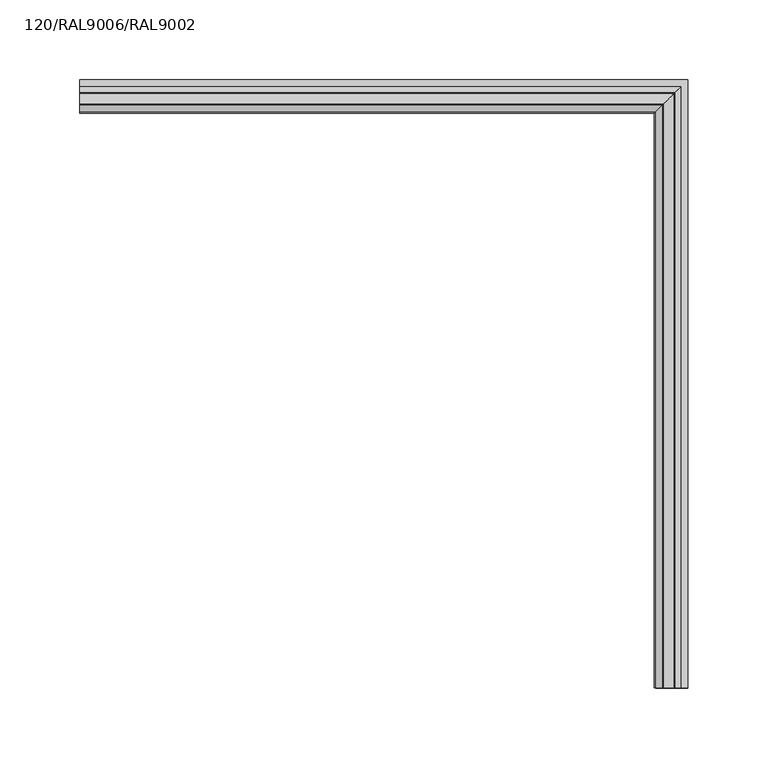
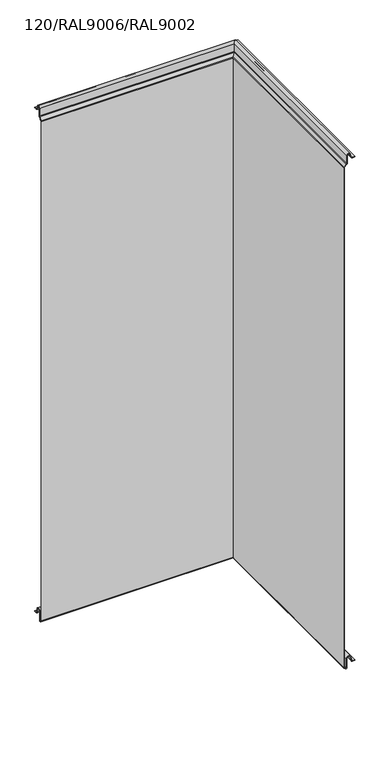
"""IFC4 building model written with IfcOpenShell, lengths in millimetres: plate geometry, TR_C_H_FHL_Corner_Tr_A : 120/RAL9006/RAL9002."""

from ifc_helpers import new_model, si_unit, frame, origin, place, context, project, spatial, polyline, circle_curve, ellipse_curve, source, transform, mapped, element, save
from ifc_brep_helpers import plane_surface, cylinder_surface, revolved_surface, advanced_brep


def plate_120_ral9006_ral9002_229d352a(model_context):
    return source(origin(), model_context, "Body", "AdvancedBrep", [
        advanced_brep(
        [(120.0, -480.0, 989.8218254), (120.0, -480.0, 0.4813708), (120.8054564, -480.0, -1.4631728), (122.6711418, -480.0, -3.3288582), (126.0, -480.0, -1.95), (126.0, -480.0, 15.65), (132.8475867, -480.0, 16.2490862), (134.1839721, -480.0, 8.6700685), (136.0551068, -480.0, 7.1), (141.0, -480.0, 7.1), (141.0, -480.0, 7.9), (136.0551068, -480.0, 7.9), (134.9718183, -480.0, 8.808987), (133.635433, -480.0, 16.3880048), (125.2, -480.0, 15.65), (125.2, -480.0, -1.95), (123.2368272, -480.0, -2.7631728), (121.3711418, -480.0, -0.8974874), (120.8, -480.0, 0.4813708), (120.8, -480.0, 989.8218254), (121.4443651, -480.0, 991.3774603), (125.8334524, -480.0, 995.7665476), (126.8, -480.0, 998.1), (126.8, -480.0, 1012.85), (131.662779, -480.0, 1013.275438), (132.4060919, -480.0, 1009.0599008), (136.8869672, -480.0, 1005.3), (141.0, -480.0, 1005.3), (141.0, -480.0, 1006.1), (136.8869672, -480.0, 1006.1), (133.1939382, -480.0, 1009.1988193), (132.4506252, -480.0, 1013.4143566), (126.0, -480.0, 1012.85), (126.0, -480.0, 998.1), (125.267767, -480.0, 996.332233), (120.8786797, -480.0, 991.9431458), (120.0, -120.0, 0.4813708), (120.0, -120.0, 989.8218254), (-240.0, -120.0, 989.8218254), (-240.0, -120.0, 0.4813708), (120.8, -119.2, 989.8218254), (120.8, -119.2, 0.4813708), (-240.0, -119.2, 0.4813708), (-240.0, -119.2, 989.8218254), (-240.0, -119.1213203, 991.9431458), (-240.0, -114.732233, 996.332233), (-240.0, -114.0, 998.1), (-240.0, -114.0, 1012.85), (-240.0, -107.5493748, 1013.4143566), (-240.0, -106.8060618, 1009.1988193), (-240.0, -103.1130328, 1006.1), (-240.0, -99.0, 1006.1), (-240.0, -99.0, 1005.3), (-240.0, -103.1130328, 1005.3), (-240.0, -107.5939081, 1009.0599008), (-240.0, -108.337221, 1013.275438), (-240.0, -113.2, 1012.85), (-240.0, -113.2, 998.1), (-240.0, -114.1665476, 995.7665476), (-240.0, -118.5556349, 991.3774603), (-240.0, -118.6288582, -0.8974874), (-240.0, -116.7631728, -2.7631728), (-240.0, -114.8, -1.95), (-240.0, -114.8, 15.65), (-240.0, -106.364567, 16.3880048), (-240.0, -105.0281817, 8.808987), (-240.0, -103.9448932, 7.9), (-240.0, -99.0, 7.9), (-240.0, -99.0, 7.1), (-240.0, -103.9448932, 7.1), (-240.0, -105.8160279, 8.6700685), (-240.0, -107.1524133, 16.2490862), (-240.0, -114.0, 15.65), (-240.0, -114.0, -1.95), (-240.0, -117.3288582, -3.3288582), (-240.0, -119.1945436, -1.4631728), (120.8054564, -119.1945436, -1.4631728), (122.6711418, -117.3288582, -3.3288582), (126.0, -114.0, -1.95), (126.0, -114.0, 15.65), (132.8475867, -107.1524133, 16.2490862), (134.1839721, -105.8160279, 8.6700685), (136.0551068, -103.9448932, 7.1), (141.0, -99.0, 7.1), (141.0, -99.0, 7.9), (136.0551068, -103.9448932, 7.9), (134.9718183, -105.0281817, 8.808987), (133.635433, -106.364567, 16.3880048), (125.2, -114.8, 15.65), (125.2, -114.8, -1.95), (123.2368272, -116.7631728, -2.7631728), (121.3711418, -118.6288582, -0.8974874), (121.4443651, -118.5556349, 991.3774603), (125.8334524, -114.1665476, 995.7665476), (126.8, -113.2, 998.1), (126.8, -113.2, 1012.85), (131.662779, -108.337221, 1013.275438), (132.4060919, -107.5939081, 1009.0599008), (136.8869672, -103.1130328, 1005.3), (141.0, -99.0, 1005.3), (141.0, -99.0, 1006.1), (136.8869672, -103.1130328, 1006.1), (133.1939382, -106.8060618, 1009.1988193), (132.4506252, -107.5493748, 1013.4143566), (126.0, -114.0, 1012.85), (126.0, -114.0, 998.1), (125.267767, -114.732233, 996.332233), (120.8786797, -119.1213203, 991.9431458)],
        [
            (0, 1),
            (1, 2, circle_curve(frame((122.75, -480.0, 0.4813708), z_axis=(0.0, -1.0, 0.0), x_axis=(-1.0, 0.0, 0.0)), 2.75)),
            (2, 3),
            (3, 4, circle_curve(frame((124.05, -480.0, -1.95), z_axis=(0.0, -1.0, 0.0), x_axis=(-1.0, 0.0, 0.0)), 1.95)),
            (4, 5),
            (5, 6, circle_curve(frame((129.45, -480.0, 15.65), z_axis=(0.0, 1.0, 0.0), x_axis=(-1.0, 0.0, 0.0)), 3.45)),
            (6, 7),
            (7, 8, circle_curve(frame((136.0551068, -480.0, 9.0), z_axis=(0.0, -1.0, 0.0), x_axis=(-1.0, 0.0, 0.0)), 1.9)),
            (8, 9),
            (9, 10),
            (10, 11),
            (11, 12, circle_curve(frame((136.0551068, -480.0, 9.0), z_axis=(0.0, 1.0, 0.0), x_axis=(-1.0, 0.0, 0.0)), 1.1)),
            (12, 13),
            (13, 14, circle_curve(frame((129.45, -480.0, 15.65), z_axis=(0.0, -1.0, 0.0), x_axis=(-1.0, 0.0, 0.0)), 4.25)),
            (14, 15),
            (15, 16, circle_curve(frame((124.05, -480.0, -1.95), z_axis=(0.0, 1.0, 0.0), x_axis=(-1.0, 0.0, 0.0)), 1.15)),
            (16, 17),
            (17, 18, circle_curve(frame((122.75, -480.0, 0.4813708), z_axis=(0.0, 1.0, 0.0), x_axis=(-1.0, 0.0, 0.0)), 1.95)),
            (18, 19),
            (19, 20, circle_curve(frame((123.0, -480.0, 989.8218254), z_axis=(0.0, 1.0, 0.0), x_axis=(-1.0, 0.0, 0.0)), 2.2)),
            (20, 21),
            (21, 22, circle_curve(frame((123.5, -480.0, 998.1), z_axis=(0.0, -1.0, 0.0), x_axis=(-1.0, 0.0, 0.0)), 3.3)),
            (22, 23),
            (23, 24, circle_curve(frame((129.25, -480.0, 1012.85), z_axis=(0.0, 1.0, 0.0), x_axis=(-1.0, 0.0, 0.0)), 2.45)),
            (24, 25),
            (25, 26, circle_curve(frame((136.8869672, -480.0, 1009.85), z_axis=(0.0, -1.0, 0.0), x_axis=(-1.0, 0.0, 0.0)), 4.55)),
            (26, 27),
            (27, 28),
            (28, 29),
            (29, 30, circle_curve(frame((136.8869672, -480.0, 1009.85), z_axis=(0.0, 1.0, 0.0), x_axis=(-1.0, 0.0, 0.0)), 3.75)),
            (30, 31),
            (31, 32, circle_curve(frame((129.25, -480.0, 1012.85), z_axis=(0.0, -1.0, 0.0), x_axis=(-1.0, 0.0, 0.0)), 3.25)),
            (32, 33),
            (33, 34, circle_curve(frame((123.5, -480.0, 998.1), z_axis=(0.0, 1.0, 0.0), x_axis=(-1.0, 0.0, 0.0)), 2.5)),
            (34, 35),
            (35, 0, circle_curve(frame((123.0, -480.0, 989.8218254), z_axis=(0.0, -1.0, 0.0), x_axis=(-1.0, 0.0, 0.0)), 3.0)),
            (36, 37),
            (37, 38),
            (38, 39),
            (39, 36),
            (40, 41),
            (41, 42),
            (42, 43),
            (43, 40),
            (38, 44, circle_curve(frame((-240.0, -117.0, 989.8218254), z_axis=(-1.0, 0.0, 0.0), x_axis=(0.0, -1.0, 0.0)), 3.0)),
            (44, 45),
            (45, 46, circle_curve(frame((-240.0, -116.5, 998.1), z_axis=(1.0, 0.0, 0.0), x_axis=(0.0, -1.0, 0.0)), 2.5)),
            (46, 47),
            (47, 48, circle_curve(frame((-240.0, -110.75, 1012.85), z_axis=(-1.0, 0.0, 0.0), x_axis=(0.0, -1.0, 0.0)), 3.25)),
            (48, 49),
            (49, 50, circle_curve(frame((-240.0, -103.1130328, 1009.85), z_axis=(1.0, 0.0, 0.0), x_axis=(0.0, -1.0, 0.0)), 3.75)),
            (50, 51),
            (51, 52),
            (52, 53),
            (53, 54, circle_curve(frame((-240.0, -103.1130328, 1009.85), z_axis=(-1.0, 0.0, 0.0), x_axis=(0.0, -1.0, 0.0)), 4.55)),
            (54, 55),
            (55, 56, circle_curve(frame((-240.0, -110.75, 1012.85), z_axis=(1.0, 0.0, 0.0), x_axis=(0.0, -1.0, 0.0)), 2.45)),
            (56, 57),
            (57, 58, circle_curve(frame((-240.0, -116.5, 998.1), z_axis=(-1.0, 0.0, 0.0), x_axis=(0.0, -1.0, 0.0)), 3.3)),
            (58, 59),
            (59, 43, circle_curve(frame((-240.0, -117.0, 989.8218254), z_axis=(1.0, 0.0, 0.0), x_axis=(0.0, -1.0, 0.0)), 2.2)),
            (42, 60, circle_curve(frame((-240.0, -117.25, 0.4813708), z_axis=(1.0, 0.0, 0.0), x_axis=(0.0, -1.0, 0.0)), 1.95)),
            (60, 61),
            (61, 62, circle_curve(frame((-240.0, -115.95, -1.95), z_axis=(1.0, 0.0, 0.0), x_axis=(0.0, -1.0, 0.0)), 1.15)),
            (62, 63),
            (63, 64, circle_curve(frame((-240.0, -110.55, 15.65), z_axis=(-1.0, 0.0, 0.0), x_axis=(0.0, -1.0, 0.0)), 4.25)),
            (64, 65),
            (65, 66, circle_curve(frame((-240.0, -103.9448932, 9.0), z_axis=(1.0, 0.0, 0.0), x_axis=(0.0, -1.0, 0.0)), 1.1)),
            (66, 67),
            (67, 68),
            (68, 69),
            (69, 70, circle_curve(frame((-240.0, -103.9448932, 9.0), z_axis=(-1.0, 0.0, 0.0), x_axis=(0.0, -1.0, 0.0)), 1.9)),
            (70, 71),
            (71, 72, circle_curve(frame((-240.0, -110.55, 15.65), z_axis=(1.0, 0.0, 0.0), x_axis=(0.0, -1.0, 0.0)), 3.45)),
            (72, 73),
            (73, 74, circle_curve(frame((-240.0, -115.95, -1.95), z_axis=(-1.0, 0.0, 0.0), x_axis=(0.0, -1.0, 0.0)), 1.95)),
            (74, 75),
            (75, 39, circle_curve(frame((-240.0, -117.25, 0.4813708), z_axis=(-1.0, 0.0, 0.0), x_axis=(0.0, -1.0, 0.0)), 2.75)),
            (0, 37),
            (36, 1),
            (18, 41),
            (40, 19),
            (36, 76, ellipse_curve(frame((122.75, -117.25, 0.4813708), z_axis=(0.7071067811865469, -0.707106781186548, 0.0), x_axis=(-0.7071067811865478, -0.707106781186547, 0.0)), 3.8890873, 2.75)),
            (76, 2),
            (76, 77),
            (77, 3),
            (77, 78, ellipse_curve(frame((124.05, -115.95, -1.95), z_axis=(0.7071067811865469, -0.707106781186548, 0.0), x_axis=(-0.7071067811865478, -0.707106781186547, 0.0)), 2.7577164, 1.95)),
            (78, 4),
            (78, 79),
            (79, 5),
            (79, 80, ellipse_curve(frame((129.45, -110.55, 15.65), z_axis=(-0.7071067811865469, 0.707106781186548, 0.0), x_axis=(0.7071067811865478, 0.707106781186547, 0.0)), 4.8790368, 3.45)),
            (80, 6),
            (80, 81),
            (81, 7),
            (81, 82, ellipse_curve(frame((136.0551068, -103.9448932, 9.0), z_axis=(0.7071067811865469, -0.707106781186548, 0.0), x_axis=(-0.7071067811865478, -0.707106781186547, 0.0)), 2.6870058, 1.9)),
            (82, 8),
            (82, 69),
            (68, 83),
            (83, 9),
            (83, 84),
            (84, 10),
            (84, 67),
            (66, 85),
            (85, 11),
            (85, 86, ellipse_curve(frame((136.0551068, -103.9448932, 9.0), z_axis=(-0.7071067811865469, 0.707106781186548, 0.0), x_axis=(0.7071067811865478, 0.707106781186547, 0.0)), 1.5556349, 1.1)),
            (86, 12),
            (86, 87),
            (87, 13),
            (87, 88, ellipse_curve(frame((129.45, -110.55, 15.65), z_axis=(0.7071067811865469, -0.707106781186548, 0.0), x_axis=(-0.7071067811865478, -0.707106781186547, 0.0)), 6.0104076, 4.25)),
            (88, 14),
            (88, 89),
            (89, 15),
            (89, 90, ellipse_curve(frame((124.05, -115.95, -1.95), z_axis=(-0.7071067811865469, 0.707106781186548, 0.0), x_axis=(0.7071067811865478, 0.707106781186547, 0.0)), 1.6263456, 1.15)),
            (90, 16),
            (90, 91),
            (91, 17),
            (91, 41, ellipse_curve(frame((122.75, -117.25, 0.4813708), z_axis=(-0.7071067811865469, 0.707106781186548, 0.0), x_axis=(0.7071067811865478, 0.707106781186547, 0.0)), 2.7577164, 1.95)),
            (40, 92, ellipse_curve(frame((123.0, -117.0, 989.8218254), z_axis=(-0.7071067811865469, 0.707106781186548, 0.0), x_axis=(0.7071067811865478, 0.707106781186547, 0.0)), 3.1112698, 2.2)),
            (92, 20),
            (92, 93),
            (93, 21),
            (93, 94, ellipse_curve(frame((123.5, -116.5, 998.1), z_axis=(0.7071067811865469, -0.707106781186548, 0.0), x_axis=(-0.7071067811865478, -0.707106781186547, 0.0)), 4.6669048, 3.3)),
            (94, 22),
            (94, 95),
            (95, 23),
            (95, 96, ellipse_curve(frame((129.25, -110.75, 1012.85), z_axis=(-0.7071067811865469, 0.707106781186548, 0.0), x_axis=(0.7071067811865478, 0.707106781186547, 0.0)), 3.4648232, 2.45)),
            (96, 24),
            (96, 97),
            (97, 25),
            (97, 98, ellipse_curve(frame((136.8869672, -103.1130328, 1009.85), z_axis=(0.7071067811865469, -0.707106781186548, 0.0), x_axis=(-0.7071067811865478, -0.707106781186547, 0.0)), 6.4346717, 4.55)),
            (98, 26),
            (98, 53),
            (52, 99),
            (99, 27),
            (99, 100),
            (100, 28),
            (100, 51),
            (50, 101),
            (101, 29),
            (101, 102, ellipse_curve(frame((136.8869672, -103.1130328, 1009.85), z_axis=(-0.7071067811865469, 0.707106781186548, 0.0), x_axis=(0.7071067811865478, 0.707106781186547, 0.0)), 5.3033009, 3.75)),
            (102, 30),
            (102, 103),
            (103, 31),
            (103, 104, ellipse_curve(frame((129.25, -110.75, 1012.85), z_axis=(0.7071067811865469, -0.707106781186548, 0.0), x_axis=(-0.7071067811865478, -0.707106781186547, 0.0)), 4.5961941, 3.25)),
            (104, 32),
            (104, 105),
            (105, 33),
            (105, 106, ellipse_curve(frame((123.5, -116.5, 998.1), z_axis=(-0.7071067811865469, 0.707106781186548, 0.0), x_axis=(0.7071067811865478, 0.707106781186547, 0.0)), 3.5355339, 2.5)),
            (106, 34),
            (106, 107),
            (107, 35),
            (107, 37, ellipse_curve(frame((123.0, -117.0, 989.8218254), z_axis=(0.7071067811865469, -0.707106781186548, 0.0), x_axis=(-0.7071067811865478, -0.707106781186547, 0.0)), 4.2426407, 3.0)),
            (75, 76),
            (74, 77),
            (73, 78),
            (72, 79),
            (71, 80),
            (70, 81),
            (65, 86),
            (64, 87),
            (63, 88),
            (62, 89),
            (61, 90),
            (60, 91),
            (59, 92),
            (58, 93),
            (57, 94),
            (56, 95),
            (55, 96),
            (54, 97),
            (49, 102),
            (48, 103),
            (47, 104),
            (46, 105),
            (45, 106),
            (44, 107),
        ],
        [
            plane_surface(frame((240.0, -480.0, 0.0), z_axis=(0.0, -1.0, 0.0), x_axis=(0.0, 0.0, 1.0))),
            plane_surface(frame((120.0, -120.0, 989.8218254), z_axis=(0.0, -1.0, 0.0), x_axis=(-1.0, 0.0, 0.0))),
            plane_surface(frame((120.8, -119.2, 0.4813708), z_axis=(0.0, 1.0, 0.0), x_axis=(-1.0, 0.0, 0.0))),
            plane_surface(frame((-240.0, 0.0, 0.0), z_axis=(-1.0, 0.0, 0.0), x_axis=(0.0, 0.0, 1.0))),
            plane_surface(frame((120.0, -480.0, 989.8218254), z_axis=(-1.0, 0.0, 0.0), x_axis=(0.0, 1.0, 0.0))),
            plane_surface(frame((120.8, -480.0, 0.4813708), z_axis=(1.0, 0.0, 0.0), x_axis=(0.0, 1.0, 0.0))),
            cylinder_surface(frame((122.75, -480.0, 0.4813708), z_axis=(0.0, -1.0, 0.0), x_axis=(-1.0, 0.0, 0.0)), 2.75),
            plane_surface(frame((120.8054564, -480.0, -1.4631728), z_axis=(-0.7071067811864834, 0.0, -0.7071067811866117), x_axis=(0.0, 1.0, 0.0))),
            cylinder_surface(frame((124.05, -480.0, -1.95), z_axis=(0.0, -1.0, 0.0), x_axis=(-1.0, 0.0, 0.0)), 1.95),
            plane_surface(frame((126.0, -480.0, -1.95), z_axis=(1.0, 0.0, 0.0), x_axis=(0.0, 1.0, 0.0))),
            revolved_surface(polyline([(125.99999999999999, -107.09999999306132, 15.65), (125.99999999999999, -480.0, 15.65)]), (129.45, -480.0, 15.65), (0.0, 1.0, 0.0)),
            plane_surface(frame((132.8475867, -480.0, 16.2490862), z_axis=(-0.9848077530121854, 0.0, -0.1736481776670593), x_axis=(0.0, 1.0, 0.0))),
            cylinder_surface(frame((136.0551068, -480.0, 9.0), z_axis=(0.0, -1.0, 0.0), x_axis=(-1.0, 0.0, 0.0)), 1.9),
            plane_surface(frame((136.0551068, -480.0, 7.1), z_axis=(0.0, 0.0, -1.0), x_axis=(0.0, 1.0, 0.0))),
            plane_surface(frame((141.0, -480.0, 7.1), z_axis=(1.0, 0.0, 0.0), x_axis=(0.0, 1.0, 0.0))),
            plane_surface(frame((141.0, -480.0, 7.9), z_axis=(0.0, 0.0, 1.0), x_axis=(0.0, 1.0, 0.0))),
            revolved_surface(polyline([(134.9551068, -102.8448932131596, 9.0), (134.9551068, -480.0, 9.0)]), (136.0551068, -480.0, 9.0), (0.0, 1.0, 0.0)),
            plane_surface(frame((134.9718183, -480.0, 8.808987), z_axis=(0.9848077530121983, 0.0, 0.17364817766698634), x_axis=(0.0, 1.0, 0.0))),
            cylinder_surface(frame((129.45, -480.0, 15.65), z_axis=(0.0, -1.0, 0.0), x_axis=(-1.0, 0.0, 0.0)), 4.25),
            plane_surface(frame((125.2, -480.0, 15.65), z_axis=(-1.0, 0.0, 0.0), x_axis=(0.0, 1.0, 0.0))),
            revolved_surface(polyline([(122.89999999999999, -114.79999999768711, -1.95), (122.89999999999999, -480.0, -1.95)]), (124.05, -480.0, -1.95), (0.0, 1.0, 0.0)),
            plane_surface(frame((123.2368272, -480.0, -2.7631728), z_axis=(0.7071067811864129, 0.0, 0.7071067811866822), x_axis=(0.0, 1.0, 0.0))),
            revolved_surface(polyline([(120.8, -115.30000003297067, 0.4813708), (120.8, -480.0, 0.4813708)]), (122.75, -480.0, 0.4813708), (0.0, 1.0, 0.0)),
            revolved_surface(polyline([(120.8, -114.80000002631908, 989.8218254), (120.8, -480.0, 989.8218254)]), (123.0, -480.0, 989.8218254), (0.0, 1.0, 0.0)),
            plane_surface(frame((121.4443651, -480.0, 991.3774603), z_axis=(0.7071067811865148, 0.0, -0.7071067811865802), x_axis=(0.0, 1.0, 0.0))),
            cylinder_surface(frame((123.5, -480.0, 998.1), z_axis=(0.0, -1.0, 0.0), x_axis=(-1.0, 0.0, 0.0)), 3.3),
            plane_surface(frame((126.8, -480.0, 998.1), z_axis=(1.0, 0.0, 0.0), x_axis=(0.0, 1.0, 0.0))),
            revolved_surface(polyline([(126.8, -108.30000001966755, 1012.85), (126.8, -480.0, 1012.85)]), (129.25, -480.0, 1012.85), (0.0, 1.0, 0.0)),
            plane_surface(frame((131.662779, -480.0, 1013.275438), z_axis=(-0.9848077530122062, 0.0, -0.17364817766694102), x_axis=(0.0, 1.0, 0.0))),
            cylinder_surface(frame((136.8869672, -480.0, 1009.85), z_axis=(0.0, -1.0, 0.0), x_axis=(-1.0, 0.0, 0.0)), 4.55),
            plane_surface(frame((136.8869672, -480.0, 1005.3), z_axis=(0.0, 0.0, -1.0), x_axis=(0.0, 1.0, 0.0))),
            plane_surface(frame((141.0, -480.0, 1005.3), z_axis=(1.0, 0.0, 0.0), x_axis=(0.0, 1.0, 0.0))),
            plane_surface(frame((141.0, -480.0, 1006.1), z_axis=(0.0, 0.0, 1.0), x_axis=(0.0, 1.0, 0.0))),
            revolved_surface(polyline([(133.1369672, -99.36303277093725, 1009.85), (133.1369672, -480.0, 1009.85)]), (136.8869672, -480.0, 1009.85), (0.0, 1.0, 0.0)),
            plane_surface(frame((133.1939382, -480.0, 1009.1988193), z_axis=(0.9848077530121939, 0.0, 0.1736481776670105), x_axis=(0.0, 1.0, 0.0))),
            cylinder_surface(frame((129.25, -480.0, 1012.85), z_axis=(0.0, -1.0, 0.0), x_axis=(-1.0, 0.0, 0.0)), 3.25),
            plane_surface(frame((126.0, -480.0, 1012.85), z_axis=(-1.0, 0.0, 0.0), x_axis=(0.0, 1.0, 0.0))),
            revolved_surface(polyline([(121.0, -114.0, 998.1), (121.0, -480.0, 998.1)]), (123.5, -480.0, 998.1), (0.0, 1.0, 0.0)),
            plane_surface(frame((125.267767, -480.0, 996.332233), z_axis=(-0.7071067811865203, 0.0, 0.7071067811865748), x_axis=(0.0, 1.0, 0.0))),
            cylinder_surface(frame((123.0, -480.0, 989.8218254), z_axis=(0.0, -1.0, 0.0), x_axis=(-1.0, 0.0, 0.0)), 3.0),
            cylinder_surface(frame((240.0, -117.25, 0.4813708), z_axis=(1.0, 0.0, 0.0), x_axis=(0.0, -1.0, 0.0)), 2.75),
            plane_surface(frame((120.8054564, -119.1945436, -1.4631728), z_axis=(0.0, -0.7071067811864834, -0.7071067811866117), x_axis=(-1.0, 0.0, 0.0))),
            cylinder_surface(frame((240.0, -115.95, -1.95), z_axis=(1.0, 0.0, 0.0), x_axis=(0.0, -1.0, 0.0)), 1.95),
            plane_surface(frame((126.0, -114.0, -1.95), z_axis=(0.0, 1.0, 0.0), x_axis=(-1.0, 0.0, 0.0))),
            revolved_surface(polyline([(-240.0, -114.0, 15.65), (132.90000000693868, -114.0, 15.65)]), (240.0, -110.55, 15.65), (-1.0, 0.0, 0.0)),
            plane_surface(frame((132.8475867, -107.1524133, 16.2490862), z_axis=(0.0, -0.9848077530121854, -0.1736481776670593), x_axis=(-1.0, 0.0, 0.0))),
            cylinder_surface(frame((240.0, -103.9448932, 9.0), z_axis=(1.0, 0.0, 0.0), x_axis=(0.0, -1.0, 0.0)), 1.9),
            plane_surface(frame((141.0, -99.0, 7.1), z_axis=(0.0, 1.0, 0.0), x_axis=(-1.0, 0.0, 0.0))),
            revolved_surface(polyline([(-240.0, -105.04489319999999, 9.0), (137.15510678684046, -105.04489319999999, 9.0)]), (240.0, -103.9448932, 9.0), (-1.0, 0.0, 0.0)),
            plane_surface(frame((134.9718183, -105.0281817, 8.808987), z_axis=(0.0, 0.9848077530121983, 0.17364817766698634), x_axis=(-1.0, 0.0, 0.0))),
            cylinder_surface(frame((240.0, -110.55, 15.65), z_axis=(1.0, 0.0, 0.0), x_axis=(0.0, -1.0, 0.0)), 4.25),
            plane_surface(frame((125.2, -114.8, 15.65), z_axis=(0.0, -1.0, 0.0), x_axis=(-1.0, 0.0, 0.0))),
            revolved_surface(polyline([(-240.0, -117.10000000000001, -1.95), (125.2000000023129, -117.10000000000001, -1.95)]), (240.0, -115.95, -1.95), (-1.0, 0.0, 0.0)),
            plane_surface(frame((123.2368272, -116.7631728, -2.7631728), z_axis=(0.0, 0.7071067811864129, 0.7071067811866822), x_axis=(-1.0, 0.0, 0.0))),
            revolved_surface(polyline([(-240.0, -119.2, 0.4813708), (124.69999996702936, -119.2, 0.4813708)]), (240.0, -117.25, 0.4813708), (-1.0, 0.0, 0.0)),
            revolved_surface(polyline([(-240.0, -119.2, 989.8218254), (125.19999997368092, -119.2, 989.8218254)]), (240.0, -117.0, 989.8218254), (-1.0, 0.0, 0.0)),
            plane_surface(frame((121.4443651, -118.5556349, 991.3774603), z_axis=(0.0, 0.7071067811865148, -0.7071067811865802), x_axis=(-1.0, 0.0, 0.0))),
            cylinder_surface(frame((240.0, -116.5, 998.1), z_axis=(1.0, 0.0, 0.0), x_axis=(0.0, -1.0, 0.0)), 3.3),
            plane_surface(frame((126.8, -113.2, 998.1), z_axis=(0.0, 1.0, 0.0), x_axis=(-1.0, 0.0, 0.0))),
            revolved_surface(polyline([(-240.0, -113.2, 1012.85), (131.69999998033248, -113.2, 1012.85)]), (240.0, -110.75, 1012.85), (-1.0, 0.0, 0.0)),
            plane_surface(frame((131.662779, -108.337221, 1013.275438), z_axis=(0.0, -0.9848077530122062, -0.17364817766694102), x_axis=(-1.0, 0.0, 0.0))),
            cylinder_surface(frame((240.0, -103.1130328, 1009.85), z_axis=(1.0, 0.0, 0.0), x_axis=(0.0, -1.0, 0.0)), 4.55),
            plane_surface(frame((141.0, -99.0, 1005.3), z_axis=(0.0, 1.0, 0.0), x_axis=(-1.0, 0.0, 0.0))),
            revolved_surface(polyline([(-240.0, -106.8630328, 1009.85), (140.6369672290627, -106.8630328, 1009.85)]), (240.0, -103.1130328, 1009.85), (-1.0, 0.0, 0.0)),
            plane_surface(frame((133.1939382, -106.8060618, 1009.1988193), z_axis=(0.0, 0.9848077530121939, 0.1736481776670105), x_axis=(-1.0, 0.0, 0.0))),
            cylinder_surface(frame((240.0, -110.75, 1012.85), z_axis=(1.0, 0.0, 0.0), x_axis=(0.0, -1.0, 0.0)), 3.25),
            plane_surface(frame((126.0, -114.0, 1012.85), z_axis=(0.0, -1.0, 0.0), x_axis=(-1.0, 0.0, 0.0))),
            revolved_surface(polyline([(-240.0, -119.0, 998.1), (126.0, -119.0, 998.1)]), (240.0, -116.5, 998.1), (-1.0, 0.0, 0.0)),
            plane_surface(frame((125.267767, -114.732233, 996.332233), z_axis=(0.0, -0.7071067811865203, 0.7071067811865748), x_axis=(-1.0, 0.0, 0.0))),
            cylinder_surface(frame((240.0, -117.0, 989.8218254), z_axis=(1.0, 0.0, 0.0), x_axis=(0.0, -1.0, 0.0)), 3.0),
        ],
        [
            (0, [[1, 2, 3, 4, 5, 6, 7, 8, 9, 10, 11, 12, 13, 14, 15, 16, 17, 18, 19, 20, 21, 22, 23, 24, 25, 26, 27, 28, 29, 30, 31, 32, 33, 34, 35, 36]]),
            (1, [[37, 38, 39, 40]]),
            (2, [[41, 42, 43, 44]]),
            (3, [[45, 46, 47, 48, 49, 50, 51, 52, 53, 54, 55, 56, 57, 58, 59, 60, 61, -43, 62, 63, 64, 65, 66, 67, 68, 69, 70, 71, 72, 73, 74, 75, 76, 77, 78, -39]]),
            (4, [[-1, 79, -37, 80]]),
            (5, [[-19, 81, -41, 82]]),
            (6, [[-2, -80, 83, 84]]),
            (7, [[-3, -84, 85, 86]]),
            (8, [[-4, -86, 87, 88]]),
            (9, [[-5, -88, 89, 90]]),
            (10, [[-6, -90, 91, 92]]),
            (11, [[-7, -92, 93, 94]]),
            (12, [[-8, -94, 95, 96]]),
            (13, [[-9, -96, 97, -71, 98, 99]]),
            (14, [[-10, -99, 100, 101]]),
            (15, [[-11, -101, 102, -69, 103, 104]]),
            (16, [[-12, -104, 105, 106]]),
            (17, [[-13, -106, 107, 108]]),
            (18, [[-14, -108, 109, 110]]),
            (19, [[-15, -110, 111, 112]]),
            (20, [[-16, -112, 113, 114]]),
            (21, [[-17, -114, 115, 116]]),
            (22, [[-18, -116, 117, -81]]),
            (23, [[-20, -82, 118, 119]]),
            (24, [[-21, -119, 120, 121]]),
            (25, [[-22, -121, 122, 123]]),
            (26, [[-23, -123, 124, 125]]),
            (27, [[-24, -125, 126, 127]]),
            (28, [[-25, -127, 128, 129]]),
            (29, [[-26, -129, 130, 131]]),
            (30, [[-27, -131, 132, -54, 133, 134]]),
            (31, [[-28, -134, 135, 136]]),
            (32, [[-29, -136, 137, -52, 138, 139]]),
            (33, [[-30, -139, 140, 141]]),
            (34, [[-31, -141, 142, 143]]),
            (35, [[-32, -143, 144, 145]]),
            (36, [[-33, -145, 146, 147]]),
            (37, [[-34, -147, 148, 149]]),
            (38, [[-35, -149, 150, 151]]),
            (39, [[-36, -151, 152, -79]]),
            (40, [[-83, -40, -78, 153]]),
            (41, [[-85, -153, -77, 154]]),
            (42, [[-87, -154, -76, 155]]),
            (43, [[-89, -155, -75, 156]]),
            (44, [[-91, -156, -74, 157]]),
            (45, [[-93, -157, -73, 158]]),
            (46, [[-95, -158, -72, -97]]),
            (47, [[-100, -98, -70, -102]]),
            (48, [[-105, -103, -68, 159]]),
            (49, [[-107, -159, -67, 160]]),
            (50, [[-109, -160, -66, 161]]),
            (51, [[-111, -161, -65, 162]]),
            (52, [[-113, -162, -64, 163]]),
            (53, [[-115, -163, -63, 164]]),
            (54, [[-117, -164, -62, -42]]),
            (55, [[-118, -44, -61, 165]]),
            (56, [[-120, -165, -60, 166]]),
            (57, [[-122, -166, -59, 167]]),
            (58, [[-124, -167, -58, 168]]),
            (59, [[-126, -168, -57, 169]]),
            (60, [[-128, -169, -56, 170]]),
            (61, [[-130, -170, -55, -132]]),
            (62, [[-135, -133, -53, -137]]),
            (63, [[-140, -138, -51, 171]]),
            (64, [[-142, -171, -50, 172]]),
            (65, [[-144, -172, -49, 173]]),
            (66, [[-146, -173, -48, 174]]),
            (67, [[-148, -174, -47, 175]]),
            (68, [[-150, -175, -46, 176]]),
            (69, [[-152, -176, -45, -38]]),
        ],
    ),
    ])


if __name__ == "__main__":
    model = new_model("IFC4")
    model_context = context("Model", 3, world=origin())
    ifc_project = project(units=[si_unit("LENGTHUNIT", "METRE", prefix="MILLI")], contexts=[model_context])
    site = spatial("IfcSite", under=ifc_project)
    building = spatial("IfcBuilding", under=site)
    placement = place(None, origin())
    plate_120_ral9006_ral9002_shape = plate_120_ral9006_ral9002_229d352a(model_context)
    element("IfcPlate", 1, ObjectType="TR_C_H_FHL_Corner_Tr_A : 120/RAL9006/RAL9002", at=placement, inside=building, context=model_context, shape_type="MappedRepresentation", body=[
        mapped(plate_120_ral9006_ral9002_shape, transform((0.0, 0.0, 0.0), x_axis=(1.0, 0.0, 0.0), y_axis=(0.0, 1.0, 0.0), z_axis=(0.0, 0.0, 1.0))),
    ])
    save(model, "model.ifc")
